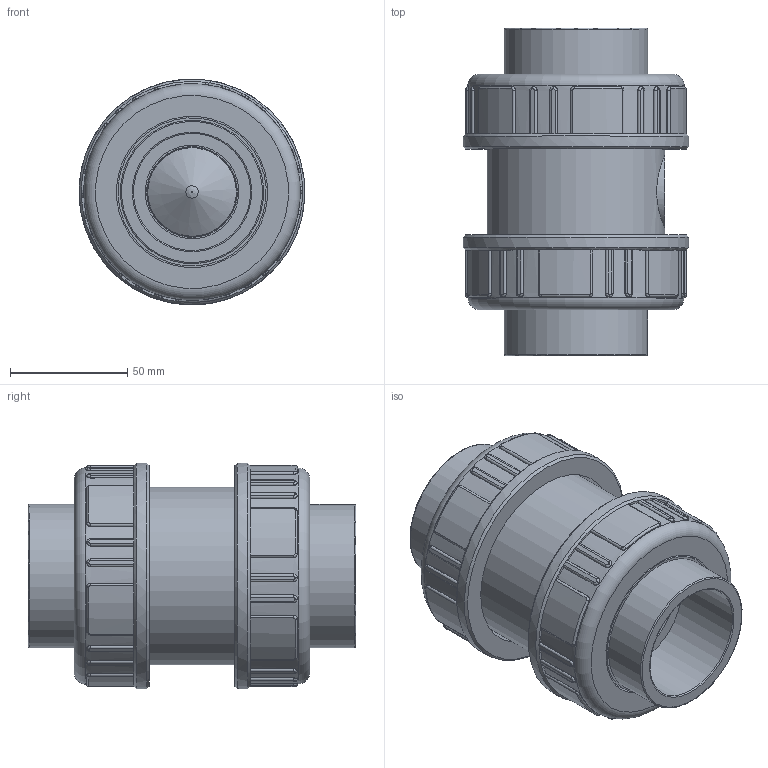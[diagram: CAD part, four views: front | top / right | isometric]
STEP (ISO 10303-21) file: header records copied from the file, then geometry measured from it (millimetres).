
FILE_DESCRIPTION(/* description */ (''),/* implementation_level */ '2;1');
FILE_NAME(/* name */ 'C:\Users\POLYPIPE\Desktop\DATASET INVENTOR\LIBRERIA EFFAST\3D_VALVOLE\3D_VALVOLE NON RITORNO\3D_CV\3D_CDRCVD\3D_CDRCVD0500.stp',/* time_stamp */ '2018-01-24T16:10:26+01:00',/* author */ ('POLYPIPE'),/* organization */ (''),/* preprocessor_version */ 'ST-DEVELOPER v16.1',/* originating_system */ 'Autodesk Inventor 2016',/* authorisation */ '');
FILE_SCHEMA (('CONFIG_CONTROL_DESIGN'));
Products named in the file (1): 3D_CDRCVD0500
Bounding box: 96.48 x 140 x 96.48 mm (x, y, z)
Volume: 416429.9 mm3; surface area: 133287 mm2
Topology: 2 solids, 4 shells, 553 faces, 1358 edges, 831 vertices
Faces by surface type: plane 204, cylinder 151, bspline 146, torus 42, cone 10
Full cylindrical faces by diameter (mm): 38.1 x1, 38.3 x1, 39 x1, 40 x2, 44.2 x1, 44.6 x1, 48.7 x1, 50 x2, 51.3 x1, 55.4 x1, 55.5 x1, 58.9 x1, 61.3 x2, 63.4 x2, 64.4 x1, 64.7 x2, 65 x1, 66 x1, 66.7 x1, 71.9 x2, 76 x1, 78.5 x2, 92.5 x2, 96.5 x2
Entity records: 60479 total; most frequent: CARTESIAN_POINT 47863, ORIENTED_EDGE 2548, DIRECTION 2303, EDGE_CURVE 1274, AXIS2_PLACEMENT_3D 883, VERTEX_POINT 813, EDGE_LOOP 651, STYLED_ITEM 555
